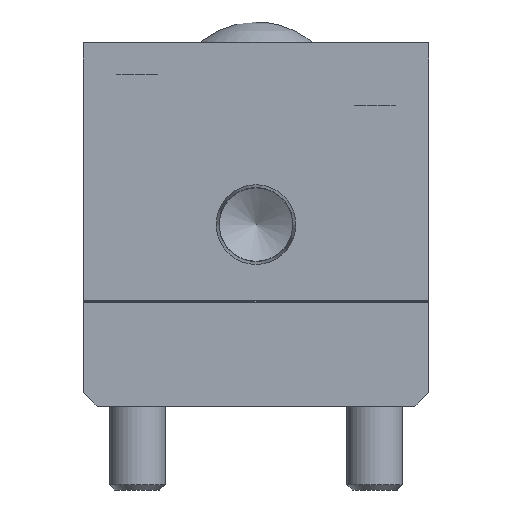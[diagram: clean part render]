
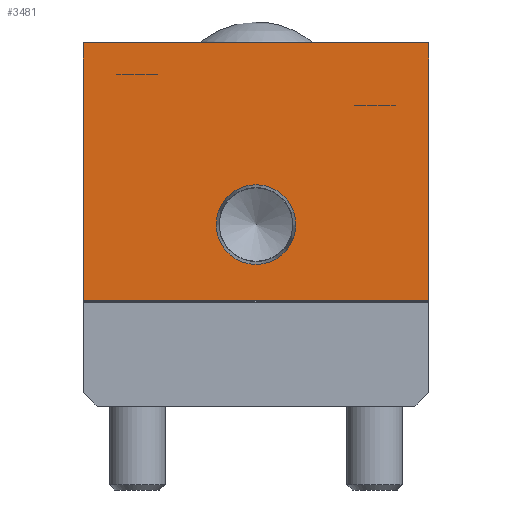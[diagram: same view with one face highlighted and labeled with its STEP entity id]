
A CAD part, front view. The second image highlights one B-rep face of the part: STEP entity #3481.
In plain terms, the highlighted planar face has unit normal (0, -1, 0).
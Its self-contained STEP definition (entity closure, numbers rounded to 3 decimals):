
#230=FACE_BOUND('',#765,.T.);
#325=CIRCLE('',#3706,5.704);
#511=FACE_OUTER_BOUND('',#764,.T.);
#764=EDGE_LOOP('',(#2507,#2508,#2509,#2510));
#765=EDGE_LOOP('',(#2511));
#1094=LINE('',#5181,#1362);
#1097=LINE('',#5186,#1365);
#1099=LINE('',#5194,#1367);
#1113=LINE('',#5230,#1381);
#1362=VECTOR('',#4179,36.9);
#1365=VECTOR('',#4184,49.5);
#1367=VECTOR('',#4192,36.9);
#1381=VECTOR('',#4236,49.5);
#1613=VERTEX_POINT('',#5178);
#1614=VERTEX_POINT('',#5180);
#1615=VERTEX_POINT('',#5184);
#1618=VERTEX_POINT('',#5192);
#1622=VERTEX_POINT('',#5206);
#1937=EDGE_CURVE('',#1614,#1613,#1094,.T.);
#1940=EDGE_CURVE('',#1613,#1615,#1097,.T.);
#1944=EDGE_CURVE('',#1618,#1615,#1099,.T.);
#1949=EDGE_CURVE('',#1622,#1622,#325,.T.);
#1962=EDGE_CURVE('',#1618,#1614,#1113,.T.);
#2507=ORIENTED_EDGE('',*,*,#1962,.T.);
#2508=ORIENTED_EDGE('',*,*,#1937,.T.);
#2509=ORIENTED_EDGE('',*,*,#1940,.T.);
#2510=ORIENTED_EDGE('',*,*,#1944,.F.);
#2511=ORIENTED_EDGE('',*,*,#1949,.T.);
#3150=PLANE('',#3739);
#3481=ADVANCED_FACE('',(#511,#230),#3150,.T.);
#3706=AXIS2_PLACEMENT_3D('',#5207,#4207,#4208);
#3739=AXIS2_PLACEMENT_3D('',#5268,#4290,#4291);
#4179=DIRECTION('',(0.,0.,1.));
#4184=DIRECTION('',(-1.,0.,0.));
#4192=DIRECTION('',(0.,0.,1.));
#4207=DIRECTION('center_axis',(0.,1.,0.));
#4208=DIRECTION('ref_axis',(1.,0.,0.));
#4236=DIRECTION('',(1.,0.,0.));
#4290=DIRECTION('center_axis',(0.,-1.,0.));
#4291=DIRECTION('ref_axis',(0.,0.,-1.));
#5178=CARTESIAN_POINT('',(24.75,0.,52.));
#5180=CARTESIAN_POINT('',(24.75,0.,15.1));
#5181=CARTESIAN_POINT('',(24.75,0.,0.));
#5184=CARTESIAN_POINT('',(-24.75,0.,52.));
#5186=CARTESIAN_POINT('',(24.75,0.,52.));
#5192=CARTESIAN_POINT('',(-24.75,0.,15.1));
#5194=CARTESIAN_POINT('',(-24.75,0.,0.));
#5206=CARTESIAN_POINT('',(5.704,0.,26.));
#5207=CARTESIAN_POINT('Origin',(0.,0.,26.));
#5230=CARTESIAN_POINT('',(24.75,0.,15.1));
#5268=CARTESIAN_POINT('Origin',(24.75,0.,0.));
